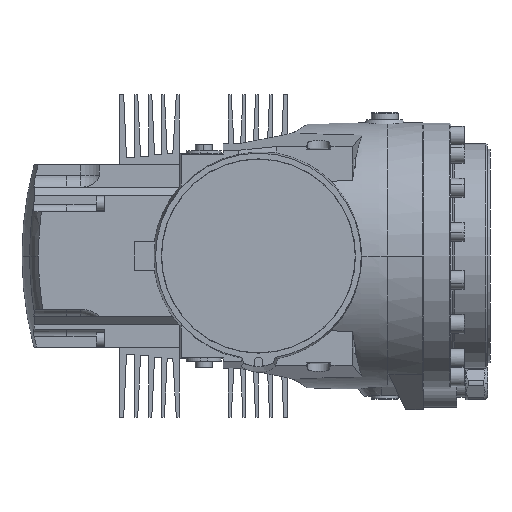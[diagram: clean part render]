
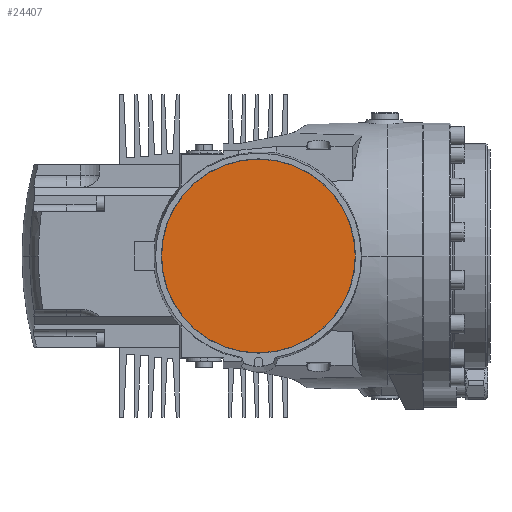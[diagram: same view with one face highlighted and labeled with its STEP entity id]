
A CAD part, front view. The second image highlights one B-rep face of the part: STEP entity #24407.
In plain terms, the highlighted planar face has unit normal (0, -1, 0).
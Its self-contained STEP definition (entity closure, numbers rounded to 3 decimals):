
#1928 = ORIENTED_EDGE ( 'NONE', *, *, #9556, .F. ) ;
#4178 = DIRECTION ( 'NONE',  ( 0., 1., 0. ) ) ;
#4800 = EDGE_CURVE ( 'NONE', #34083, #29258, #33993, .T. ) ;
#9556 = EDGE_CURVE ( 'NONE', #29258, #34083, #36598, .T. ) ;
#10298 = DIRECTION ( 'NONE',  ( -1., 0., 0. ) ) ;
#14052 = AXIS2_PLACEMENT_3D ( 'NONE', #23516, #35109, #23707 ) ;
#14297 = CARTESIAN_POINT ( 'NONE',  ( 2203.5, -95., 2205. ) ) ;
#15396 = CARTESIAN_POINT ( 'NONE',  ( 2341.5, -95., 2205. ) ) ;
#15620 = CARTESIAN_POINT ( 'NONE',  ( 2203.5, -95., 2205. ) ) ;
#17009 = DIRECTION ( 'NONE',  ( -1., 0., 0. ) ) ;
#17531 = AXIS2_PLACEMENT_3D ( 'NONE', #19846, #34187, #17009 ) ;
#18478 = PLANE ( 'NONE',  #23241 ) ;
#19846 = CARTESIAN_POINT ( 'NONE',  ( 2272.5, -95., 2205. ) ) ;
#23191 = EDGE_LOOP ( 'NONE', ( #36423, #1928 ) ) ;
#23241 = AXIS2_PLACEMENT_3D ( 'NONE', #15620, #4178, #10298 ) ;
#23516 = CARTESIAN_POINT ( 'NONE',  ( 2272.5, -95., 2205. ) ) ;
#23707 = DIRECTION ( 'NONE',  ( -1., 0., 0. ) ) ;
#24407 = ADVANCED_FACE ( 'NONE', ( #37645 ), #18478, .F. ) ;
#29258 = VERTEX_POINT ( 'NONE', #15396 ) ;
#33993 = CIRCLE ( 'NONE', #17531, 69. ) ;
#34083 = VERTEX_POINT ( 'NONE', #14297 ) ;
#34187 = DIRECTION ( 'NONE',  ( 0., 1., 0. ) ) ;
#35109 = DIRECTION ( 'NONE',  ( 0., 1., 0. ) ) ;
#36423 = ORIENTED_EDGE ( 'NONE', *, *, #4800, .F. ) ;
#36598 = CIRCLE ( 'NONE', #14052, 69. ) ;
#37645 = FACE_OUTER_BOUND ( 'NONE', #23191, .T. ) ;
